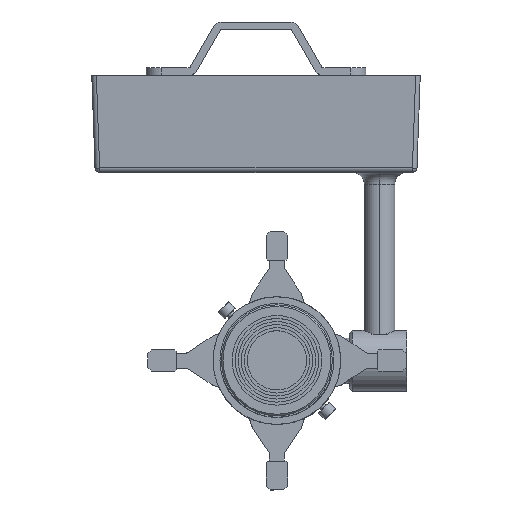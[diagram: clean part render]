
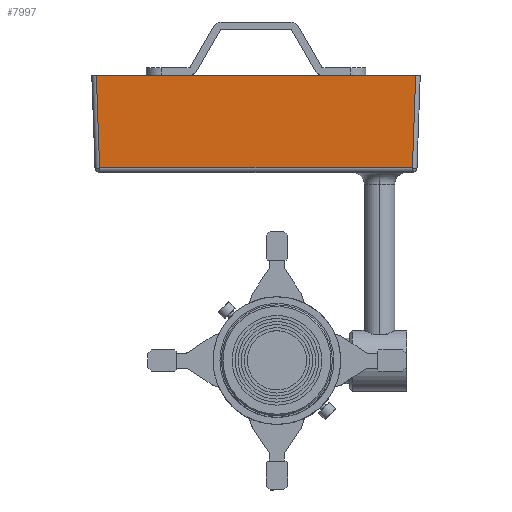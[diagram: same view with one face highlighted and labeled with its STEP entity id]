
A CAD part, top view. The second image highlights one B-rep face of the part: STEP entity #7997.
In plain terms, the highlighted planar face has unit normal (0, -0.035, 0.999).
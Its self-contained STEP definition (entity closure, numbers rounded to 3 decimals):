
#463 = DIRECTION ( 'NONE',  ( 1., 0., 0. ) ) ;
#741 = CARTESIAN_POINT ( 'NONE',  ( 49.548, 116.73, 25.896 ) ) ;
#840 = CARTESIAN_POINT ( 'NONE',  ( -158.9, 188., 28.385 ) ) ;
#885 = LINE ( 'NONE', #6439, #4813 ) ;
#947 = ORIENTED_EDGE ( 'NONE', *, *, #2898, .T. ) ;
#1014 = AXIS2_PLACEMENT_3D ( 'NONE', #2506, #5367, #7632 ) ;
#1336 = DIRECTION ( 'NONE',  ( 0.035, -0.999, -0.035 ) ) ;
#1378 = EDGE_CURVE ( 'NONE', #7134, #5194, #5615, .T. ) ;
#1528 = DIRECTION ( 'NONE',  ( 0.035, 0.999, 0.035 ) ) ;
#1677 = VECTOR ( 'NONE', #3789, 1000. ) ;
#2181 = ORIENTED_EDGE ( 'NONE', *, *, #7275, .T. ) ;
#2358 = VERTEX_POINT ( 'NONE', #7805 ) ;
#2506 = CARTESIAN_POINT ( 'NONE',  ( -158.9, 124., 26.15 ) ) ;
#2653 = CARTESIAN_POINT ( 'NONE',  ( 52.037, 188., 28.385 ) ) ;
#2898 = EDGE_CURVE ( 'NONE', #2358, #5194, #8766, .T. ) ;
#3285 = LINE ( 'NONE', #8423, #5355 ) ;
#3627 = FACE_OUTER_BOUND ( 'NONE', #7472, .T. ) ;
#3789 = DIRECTION ( 'NONE',  ( 1., 0., 0. ) ) ;
#4813 = VECTOR ( 'NONE', #1336, 1000. ) ;
#5194 = VERTEX_POINT ( 'NONE', #2653 ) ;
#5355 = VECTOR ( 'NONE', #463, 1000. ) ;
#5367 = DIRECTION ( 'NONE',  ( 0., -0.035, 0.999 ) ) ;
#5438 = PLANE ( 'NONE',  #1014 ) ;
#5503 = CARTESIAN_POINT ( 'NONE',  ( -156.003, 126.895, 26.251 ) ) ;
#5615 = LINE ( 'NONE', #840, #1677 ) ;
#6434 = ORIENTED_EDGE ( 'NONE', *, *, #1378, .F. ) ;
#6439 = CARTESIAN_POINT ( 'NONE',  ( -155.905, 124.104, 26.154 ) ) ;
#6589 = VECTOR ( 'NONE', #1528, 1000. ) ;
#6663 = EDGE_CURVE ( 'NONE', #7938, #2358, #3285, .T. ) ;
#7134 = VERTEX_POINT ( 'NONE', #9228 ) ;
#7275 = EDGE_CURVE ( 'NONE', #7134, #7938, #885, .T. ) ;
#7363 = ORIENTED_EDGE ( 'NONE', *, *, #6663, .T. ) ;
#7472 = EDGE_LOOP ( 'NONE', ( #6434, #2181, #7363, #947 ) ) ;
#7632 = DIRECTION ( 'NONE',  ( 0., -0.999, -0.035 ) ) ;
#7805 = CARTESIAN_POINT ( 'NONE',  ( 49.903, 126.895, 26.251 ) ) ;
#7938 = VERTEX_POINT ( 'NONE', #5503 ) ;
#7997 = ADVANCED_FACE ( 'NONE', ( #3627 ), #5438, .T. ) ;
#8423 = CARTESIAN_POINT ( 'NONE',  ( -158.9, 126.895, 26.251 ) ) ;
#8766 = LINE ( 'NONE', #741, #6589 ) ;
#9228 = CARTESIAN_POINT ( 'NONE',  ( -158.137, 188., 28.385 ) ) ;
